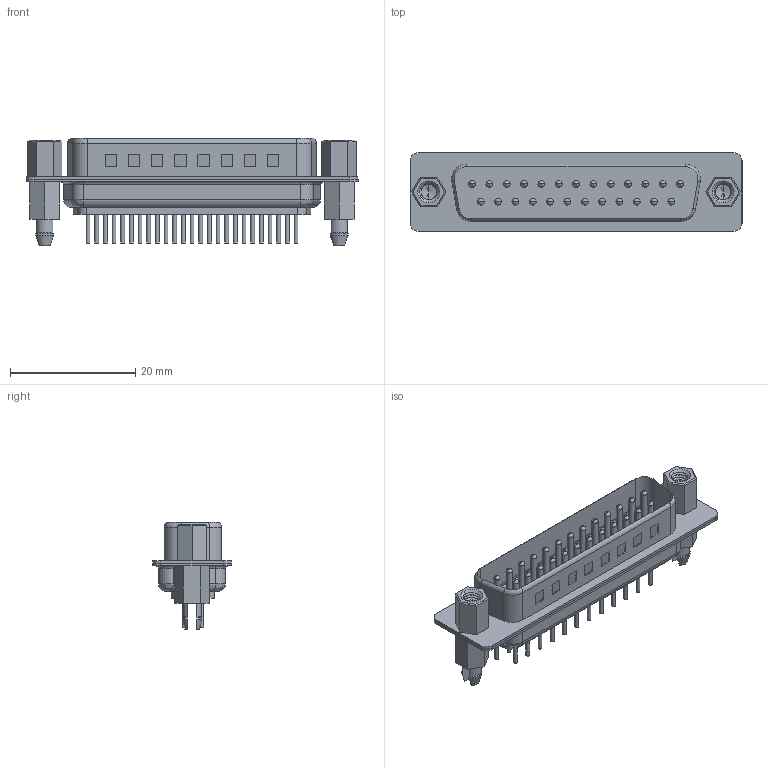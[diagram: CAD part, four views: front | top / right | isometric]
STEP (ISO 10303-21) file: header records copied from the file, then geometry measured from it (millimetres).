
FILE_DESCRIPTION((''),'2;1');
FILE_NAME('101-2514823B10-A1_ASM','2021-05-20T',('ed302'),(''),'PRO/ENGINEER BY PARAMETRIC TECHNOLOGY CORPORATION, 2015240','PRO/ENGINEER BY PARAMETRIC TECHNOLOGY CORPORATION, 2015240','');
FILE_SCHEMA(('CONFIG_CONTROL_DESIGN'));
Length unit declared in the file: millimetre
Products named in the file (8): 25PIN-FRONT-HOUSING-MALE; 25PIN-BACK-HOUSING-FEMALE-1; TERMINAL-MALE-101SERIES; 101-44MALE-FRONTSHELL; 101-25FEMALE-BACKSHELL-1; BOARDLOCK-1; 80911108580113; 101-2514823B10-A1_ASM
Assembly tree (33 placements, depth 2):
  101-2514823B10-A1_ASM
    25PIN-FRONT-HOUSING-MALE
    25PIN-BACK-HOUSING-FEMALE-1
    TERMINAL-MALE-101SERIES  x25
    101-44MALE-FRONTSHELL
    101-25FEMALE-BACKSHELL-1
    BOARDLOCK-1  x2
    80911108580113  x2
Bounding box: 53.05 x 12.55 x 17.1 mm (x, y, z)
Volume: 2794.2 mm3; surface area: 9955.9 mm2
Topology: 58 solids, 58 shells, 1724 faces, 4058 edges, 2520 vertices
Faces by surface type: cylinder 844, plane 628, sphere 150, bspline 53, cone 32, torus 17
Entity records: 24237 total; most frequent: CARTESIAN_POINT 8926, DIRECTION 3182, ORIENTED_EDGE 3046, EDGE_CURVE 1523, AXIS2_PLACEMENT_3D 1182, VERTEX_POINT 976, VECTOR 818, LINE 818
